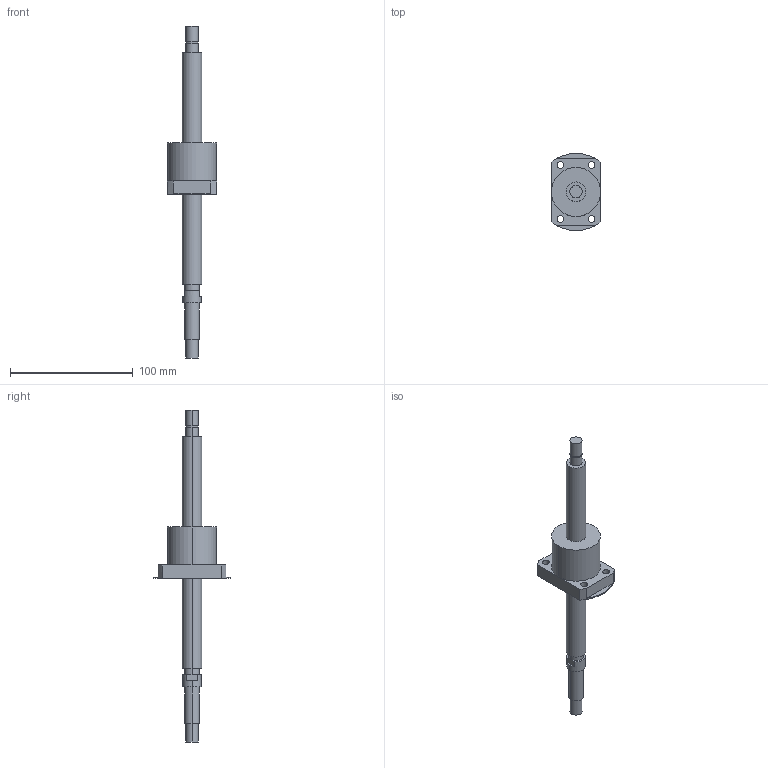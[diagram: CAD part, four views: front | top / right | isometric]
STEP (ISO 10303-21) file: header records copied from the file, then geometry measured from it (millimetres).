
FILE_DESCRIPTION((''),'2;1');
FILE_NAME('R16-5B1-FSW--189-271','2008-03-28T',('mahdi'),(''),'PRO/ENGINEER BY PARAMETRIC TECHNOLOGY CORPORATION, 2005070','PRO/ENGINEER BY PARAMETRIC TECHNOLOGY CORPORATION, 2005070','');
FILE_SCHEMA(('CONFIG_CONTROL_DESIGN'));
Length unit declared in the file: millimetre
Products named in the file (1): R16-5B1-FSW--189-271
Bounding box: 40 x 63 x 271 mm (x, y, z)
Volume: 99026.1 mm3; surface area: 21890 mm2
Topology: 1 solids, 1 shells, 66 faces, 148 edges, 96 vertices
Faces by surface type: cylinder 38, plane 28
Entity records: 1926 total; most frequent: DIRECTION 364, CARTESIAN_POINT 310, ORIENTED_EDGE 296, AXIS2_PLACEMENT_3D 150, EDGE_CURVE 148, VERTEX_POINT 96, EDGE_LOOP 86, CIRCLE 84
